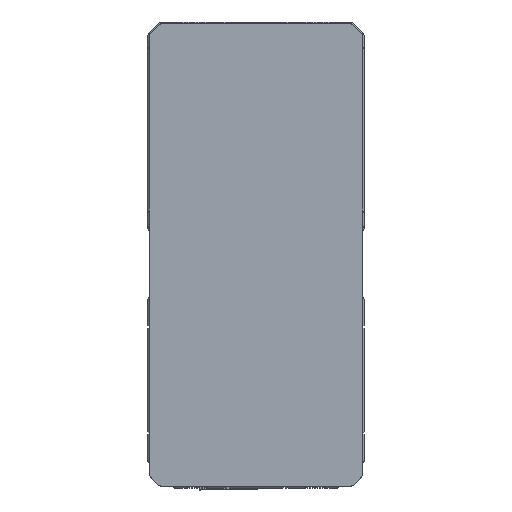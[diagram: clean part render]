
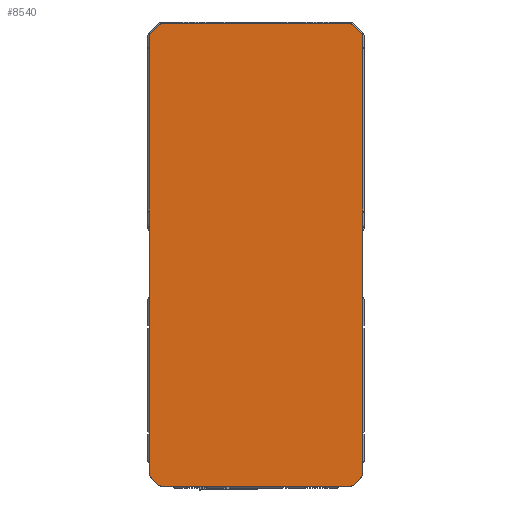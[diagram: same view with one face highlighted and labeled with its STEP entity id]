
A CAD part, top view. The second image highlights one B-rep face of the part: STEP entity #8540.
In plain terms, the highlighted planar face has unit normal (0, 0, 1).
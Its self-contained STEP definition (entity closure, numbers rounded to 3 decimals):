
#485 = VERTEX_POINT ( 'NONE', #3994 ) ;
#790 = EDGE_LOOP ( 'NONE', ( #19880, #15586, #15078, #36650, #39725, #7904, #12674, #32390, #8483, #11028, #11258, #36812, #6631, #8142, #29677, #5308 ) ) ;
#809 = EDGE_CURVE ( 'NONE', #25079, #11058, #23480, .T. ) ;
#886 = CARTESIAN_POINT ( 'NONE',  ( -32., 28.079, 594. ) ) ;
#1240 = DIRECTION ( 'NONE',  ( 0., 0., 1. ) ) ;
#2689 = VECTOR ( 'NONE', #4049, 1000. ) ;
#3175 = CARTESIAN_POINT ( 'NONE',  ( -28.079, 32., 594. ) ) ;
#3375 = VERTEX_POINT ( 'NONE', #35747 ) ;
#3994 = CARTESIAN_POINT ( 'NONE',  ( 32., -103.079, 594. ) ) ;
#4049 = DIRECTION ( 'NONE',  ( 0., -1., 0. ) ) ;
#4246 = CARTESIAN_POINT ( 'NONE',  ( -31.561, 29.139, 594. ) ) ;
#4306 = EDGE_CURVE ( 'NONE', #11058, #21674, #19282, .T. ) ;
#4413 = CARTESIAN_POINT ( 'NONE',  ( -32., 28.079, 594. ) ) ;
#4840 = DIRECTION ( 'NONE',  ( 0.707, -0.707, 0. ) ) ;
#4892 = AXIS2_PLACEMENT_3D ( 'NONE', #6124, #27890, #9271 ) ;
#5123 = CIRCLE ( 'NONE', #14883, 1.5 ) ;
#5308 = ORIENTED_EDGE ( 'NONE', *, *, #34948, .T. ) ;
#5494 = LINE ( 'NONE', #3175, #29319 ) ;
#5935 = CARTESIAN_POINT ( 'NONE',  ( 29.139, 31.561, 594. ) ) ;
#6004 = VERTEX_POINT ( 'NONE', #14646 ) ;
#6077 = DIRECTION ( 'NONE',  ( 0., 0., 1. ) ) ;
#6124 = CARTESIAN_POINT ( 'NONE',  ( -28.079, 30.5, 594. ) ) ;
#6631 = ORIENTED_EDGE ( 'NONE', *, *, #18326, .T. ) ;
#7153 = DIRECTION ( 'NONE',  ( 0., 0., 1. ) ) ;
#7265 = CARTESIAN_POINT ( 'NONE',  ( -31.561, 29.139, 594. ) ) ;
#7904 = ORIENTED_EDGE ( 'NONE', *, *, #21698, .T. ) ;
#7977 = CARTESIAN_POINT ( 'NONE',  ( -31.561, -104.139, 594. ) ) ;
#8142 = ORIENTED_EDGE ( 'NONE', *, *, #30641, .T. ) ;
#8270 = EDGE_CURVE ( 'NONE', #30587, #13616, #13071, .T. ) ;
#8483 = ORIENTED_EDGE ( 'NONE', *, *, #36868, .T. ) ;
#8540 = ADVANCED_FACE ( 'NONE', ( #36906 ), #12708, .F. ) ;
#8594 = AXIS2_PLACEMENT_3D ( 'NONE', #19932, #1240, #23060 ) ;
#8996 = DIRECTION ( 'NONE',  ( 0., 0., 1. ) ) ;
#9271 = DIRECTION ( 'NONE',  ( -1., 0., 0. ) ) ;
#9643 = LINE ( 'NONE', #7977, #16927 ) ;
#10695 = EDGE_CURVE ( 'NONE', #485, #32092, #12917, .T. ) ;
#10702 = CARTESIAN_POINT ( 'NONE',  ( 32., 28.079, 594. ) ) ;
#10947 = AXIS2_PLACEMENT_3D ( 'NONE', #27623, #8996, #30740 ) ;
#11028 = ORIENTED_EDGE ( 'NONE', *, *, #8270, .T. ) ;
#11037 = CARTESIAN_POINT ( 'NONE',  ( 32., 28.079, 594. ) ) ;
#11058 = VERTEX_POINT ( 'NONE', #4413 ) ;
#11160 = CARTESIAN_POINT ( 'NONE',  ( -30.5, -103.079, 594. ) ) ;
#11258 = ORIENTED_EDGE ( 'NONE', *, *, #24255, .T. ) ;
#11938 = AXIS2_PLACEMENT_3D ( 'NONE', #24710, #6077, #27837 ) ;
#12512 = DIRECTION ( 'NONE',  ( 0., 0., 1. ) ) ;
#12674 = ORIENTED_EDGE ( 'NONE', *, *, #33482, .T. ) ;
#12708 = PLANE ( 'NONE',  #29673 ) ;
#12917 = LINE ( 'NONE', #10702, #20223 ) ;
#13071 = LINE ( 'NONE', #23730, #28582 ) ;
#13278 = LINE ( 'NONE', #4246, #20586 ) ;
#13616 = VERTEX_POINT ( 'NONE', #18118 ) ;
#14053 = EDGE_CURVE ( 'NONE', #21674, #15273, #29417, .T. ) ;
#14158 = VECTOR ( 'NONE', #27707, 1000. ) ;
#14219 = CARTESIAN_POINT ( 'NONE',  ( -29.139, -106.561, 594. ) ) ;
#14269 = DIRECTION ( 'NONE',  ( -1., 0., 0. ) ) ;
#14345 = DIRECTION ( 'NONE',  ( 0., 0., 1. ) ) ;
#14646 = CARTESIAN_POINT ( 'NONE',  ( 31.561, 29.139, 594. ) ) ;
#14883 = AXIS2_PLACEMENT_3D ( 'NONE', #25791, #7153, #28906 ) ;
#15066 = CARTESIAN_POINT ( 'NONE',  ( 29.139, -106.561, 594. ) ) ;
#15078 = ORIENTED_EDGE ( 'NONE', *, *, #809, .T. ) ;
#15273 = VERTEX_POINT ( 'NONE', #23166 ) ;
#15586 = ORIENTED_EDGE ( 'NONE', *, *, #35174, .T. ) ;
#16141 = AXIS2_PLACEMENT_3D ( 'NONE', #32960, #14345, #36090 ) ;
#16436 = CARTESIAN_POINT ( 'NONE',  ( -29.139, 31.561, 594. ) ) ;
#16678 = CARTESIAN_POINT ( 'NONE',  ( -28.079, 32., 594. ) ) ;
#16927 = VECTOR ( 'NONE', #4840, 1000. ) ;
#18118 = CARTESIAN_POINT ( 'NONE',  ( 31.561, -104.139, 594. ) ) ;
#18326 = EDGE_CURVE ( 'NONE', #32092, #6004, #18402, .T. ) ;
#18402 = CIRCLE ( 'NONE', #11938, 1.5 ) ;
#18939 = DIRECTION ( 'NONE',  ( -1., 0., 0. ) ) ;
#19120 = VERTEX_POINT ( 'NONE', #16678 ) ;
#19282 = LINE ( 'NONE', #886, #2689 ) ;
#19880 = ORIENTED_EDGE ( 'NONE', *, *, #31712, .T. ) ;
#19925 = DIRECTION ( 'NONE',  ( -0.707, -0.707, 0. ) ) ;
#19932 = CARTESIAN_POINT ( 'NONE',  ( 28.079, -105.5, 594. ) ) ;
#20223 = VECTOR ( 'NONE', #32444, 1000. ) ;
#20270 = CARTESIAN_POINT ( 'NONE',  ( -32., -103.079, 594. ) ) ;
#20475 = VECTOR ( 'NONE', #34168, 1000. ) ;
#20586 = VECTOR ( 'NONE', #19925, 1000. ) ;
#21078 = CARTESIAN_POINT ( 'NONE',  ( -28.079, -107., 594. ) ) ;
#21460 = LINE ( 'NONE', #31039, #20475 ) ;
#21674 = VERTEX_POINT ( 'NONE', #20270 ) ;
#21698 = EDGE_CURVE ( 'NONE', #15273, #27852, #9643, .T. ) ;
#22146 = CIRCLE ( 'NONE', #16141, 1.5 ) ;
#22806 = CARTESIAN_POINT ( 'NONE',  ( 28.079, 32., 594. ) ) ;
#23060 = DIRECTION ( 'NONE',  ( -1., 0., 0. ) ) ;
#23166 = CARTESIAN_POINT ( 'NONE',  ( -31.561, -104.139, 594. ) ) ;
#23480 = CIRCLE ( 'NONE', #28646, 1.5 ) ;
#23730 = CARTESIAN_POINT ( 'NONE',  ( 29.139, -106.561, 594. ) ) ;
#24255 = EDGE_CURVE ( 'NONE', #13616, #485, #37173, .T. ) ;
#24482 = VERTEX_POINT ( 'NONE', #16436 ) ;
#24522 = AXIS2_PLACEMENT_3D ( 'NONE', #11160, #32896, #14269 ) ;
#24710 = CARTESIAN_POINT ( 'NONE',  ( 30.5, 28.079, 594. ) ) ;
#25079 = VERTEX_POINT ( 'NONE', #7265 ) ;
#25131 = VERTEX_POINT ( 'NONE', #32283 ) ;
#25232 = EDGE_CURVE ( 'NONE', #3375, #38556, #22146, .T. ) ;
#25791 = CARTESIAN_POINT ( 'NONE',  ( -28.079, -105.5, 594. ) ) ;
#27623 = CARTESIAN_POINT ( 'NONE',  ( 30.5, -103.079, 594. ) ) ;
#27707 = DIRECTION ( 'NONE',  ( -0.707, 0.707, 0. ) ) ;
#27837 = DIRECTION ( 'NONE',  ( -1., 0., 0. ) ) ;
#27852 = VERTEX_POINT ( 'NONE', #14219 ) ;
#27890 = DIRECTION ( 'NONE',  ( 0., 0., 1. ) ) ;
#28582 = VECTOR ( 'NONE', #36230, 1000. ) ;
#28646 = AXIS2_PLACEMENT_3D ( 'NONE', #31101, #12512, #34232 ) ;
#28906 = DIRECTION ( 'NONE',  ( 1., 0., 0. ) ) ;
#29319 = VECTOR ( 'NONE', #37427, 1000. ) ;
#29417 = CIRCLE ( 'NONE', #24522, 1.5 ) ;
#29673 = AXIS2_PLACEMENT_3D ( 'NONE', #34435, #37548, #18939 ) ;
#29677 = ORIENTED_EDGE ( 'NONE', *, *, #25232, .T. ) ;
#30098 = CIRCLE ( 'NONE', #4892, 1.5 ) ;
#30587 = VERTEX_POINT ( 'NONE', #15066 ) ;
#30641 = EDGE_CURVE ( 'NONE', #6004, #3375, #31649, .T. ) ;
#30740 = DIRECTION ( 'NONE',  ( 1., 0., 0. ) ) ;
#31039 = CARTESIAN_POINT ( 'NONE',  ( -28.079, -107., 594. ) ) ;
#31101 = CARTESIAN_POINT ( 'NONE',  ( -30.5, 28.079, 594. ) ) ;
#31649 = LINE ( 'NONE', #5935, #14158 ) ;
#31712 = EDGE_CURVE ( 'NONE', #19120, #24482, #30098, .T. ) ;
#32092 = VERTEX_POINT ( 'NONE', #11037 ) ;
#32283 = CARTESIAN_POINT ( 'NONE',  ( 28.079, -107., 594. ) ) ;
#32390 = ORIENTED_EDGE ( 'NONE', *, *, #39012, .T. ) ;
#32444 = DIRECTION ( 'NONE',  ( 0., 1., 0. ) ) ;
#32896 = DIRECTION ( 'NONE',  ( 0., 0., 1. ) ) ;
#32960 = CARTESIAN_POINT ( 'NONE',  ( 28.079, 30.5, 594. ) ) ;
#33482 = EDGE_CURVE ( 'NONE', #27852, #38229, #5123, .T. ) ;
#34168 = DIRECTION ( 'NONE',  ( 1., 0., 0. ) ) ;
#34232 = DIRECTION ( 'NONE',  ( 1., 0., 0. ) ) ;
#34435 = CARTESIAN_POINT ( 'NONE',  ( -28.079, 30.5, 594. ) ) ;
#34948 = EDGE_CURVE ( 'NONE', #38556, #19120, #5494, .T. ) ;
#35174 = EDGE_CURVE ( 'NONE', #24482, #25079, #13278, .T. ) ;
#35747 = CARTESIAN_POINT ( 'NONE',  ( 29.139, 31.561, 594. ) ) ;
#36090 = DIRECTION ( 'NONE',  ( 1., 0., 0. ) ) ;
#36230 = DIRECTION ( 'NONE',  ( 0.707, 0.707, 0. ) ) ;
#36650 = ORIENTED_EDGE ( 'NONE', *, *, #4306, .T. ) ;
#36812 = ORIENTED_EDGE ( 'NONE', *, *, #10695, .T. ) ;
#36868 = EDGE_CURVE ( 'NONE', #25131, #30587, #38125, .T. ) ;
#36906 = FACE_OUTER_BOUND ( 'NONE', #790, .T. ) ;
#37173 = CIRCLE ( 'NONE', #10947, 1.5 ) ;
#37427 = DIRECTION ( 'NONE',  ( -1., 0., 0. ) ) ;
#37548 = DIRECTION ( 'NONE',  ( 0., 0., -1. ) ) ;
#38125 = CIRCLE ( 'NONE', #8594, 1.5 ) ;
#38229 = VERTEX_POINT ( 'NONE', #21078 ) ;
#38556 = VERTEX_POINT ( 'NONE', #22806 ) ;
#39012 = EDGE_CURVE ( 'NONE', #38229, #25131, #21460, .T. ) ;
#39725 = ORIENTED_EDGE ( 'NONE', *, *, #14053, .T. ) ;
